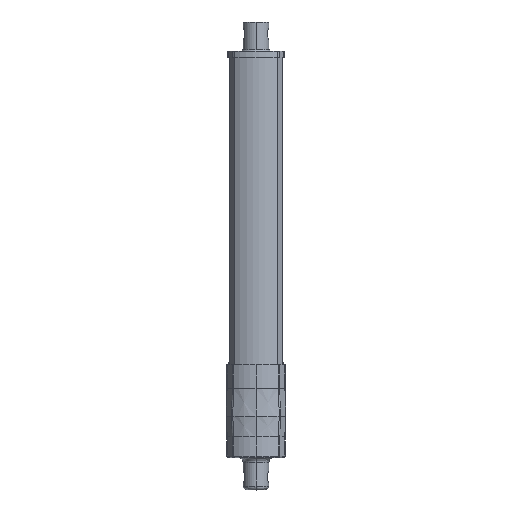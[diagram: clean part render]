
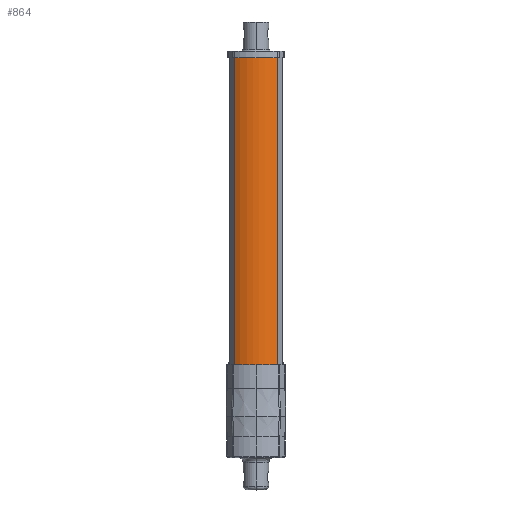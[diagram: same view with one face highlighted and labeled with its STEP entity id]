
A CAD part, top view. The second image highlights one B-rep face of the part: STEP entity #864.
In plain terms, the highlighted cylindrical face has radius 30 mm (diameter 60 mm), a partial arc.
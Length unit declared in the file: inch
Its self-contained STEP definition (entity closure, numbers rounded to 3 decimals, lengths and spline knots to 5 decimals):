
#864=ADVANCED_FACE('NONE',(#2414),#2415,.T.);
#2414=FACE_OUTER_BOUND('',#4787,.T.);
#2415=CYLINDRICAL_SURFACE('',#4788,1.1811);
#4787=EDGE_LOOP('',(#8636,#8637,#8638,#8639));
#4788=AXIS2_PLACEMENT_3D('',#8640,#8641,#8642);
#8636=ORIENTED_EDGE('',*,*,#15356,.T.);
#8637=ORIENTED_EDGE('',*,*,#15357,.T.);
#8638=ORIENTED_EDGE('',*,*,#15358,.F.);
#8639=ORIENTED_EDGE('',*,*,#15359,.T.);
#8640=CARTESIAN_POINT('',(0.,8.18898,0.25591));
#8641=DIRECTION('',(0.,-1.0,0.));
#8642=DIRECTION('',(-1.0,0.,0.));
#15356=EDGE_CURVE('NONE',#18098,#18099,#18100,.T.);
#15357=EDGE_CURVE('NONE',#18099,#18101,#18102,.T.);
#15358=EDGE_CURVE('NONE',#18103,#18101,#18104,.T.);
#15359=EDGE_CURVE('NONE',#18103,#18098,#18105,.T.);
#18098=VERTEX_POINT('NONE',#22168);
#18099=VERTEX_POINT('NONE',#22169);
#18100=CIRCLE('',#22170,1.1811);
#18101=VERTEX_POINT('NONE',#22171);
#18102=LINE('',#22172,#22173);
#18103=VERTEX_POINT('NONE',#22174);
#18104=CIRCLE('',#22175,1.1811);
#18105=LINE('',#22176,#22177);
#22168=CARTESIAN_POINT('',(-0.64271,0.31496,1.24683));
#22169=CARTESIAN_POINT('',(0.64271,0.31496,1.24683));
#22170=AXIS2_PLACEMENT_3D('',#28661,#28662,#28663);
#22171=CARTESIAN_POINT('',(0.64271,10.15748,1.24683));
#22172=CARTESIAN_POINT('',(0.64271,8.18898,1.24683));
#22173=VECTOR('',#28664,39.37008);
#22174=CARTESIAN_POINT('',(-0.64271,10.15748,1.24683));
#22175=AXIS2_PLACEMENT_3D('',#28665,#28666,#28667);
#22176=CARTESIAN_POINT('',(-0.64271,8.18898,1.24683));
#22177=VECTOR('',#28668,39.37008);
#28661=CARTESIAN_POINT('',(0.,0.31496,0.25591));
#28662=DIRECTION('',(0.,1.0,0.));
#28663=DIRECTION('',(-1.0,0.,0.));
#28664=DIRECTION('',(0.,1.0,0.));
#28665=CARTESIAN_POINT('',(0.,10.15748,0.25591));
#28666=DIRECTION('',(0.,1.0,0.));
#28667=DIRECTION('',(1.0,0.,0.));
#28668=DIRECTION('',(0.,-1.0,0.));
